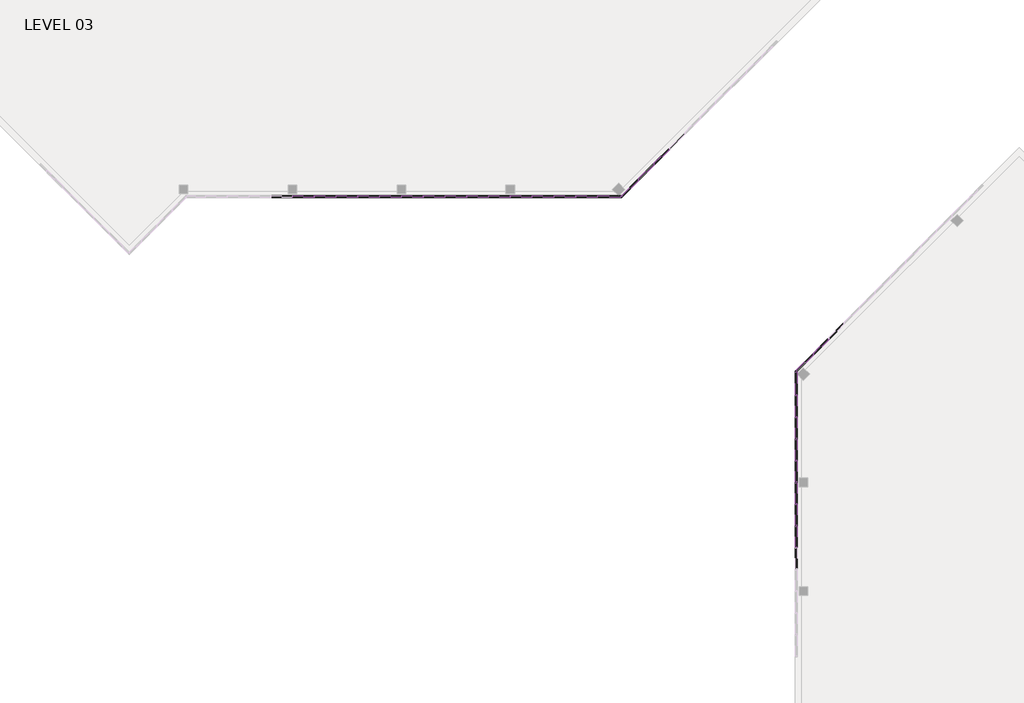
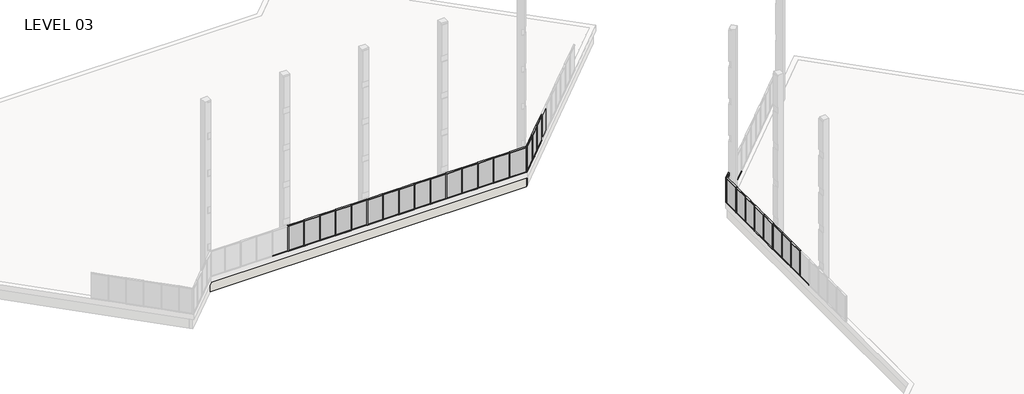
# One storey, part 13 of 18: 90 members, 29 plates, 1 wall.
"""IFC4 building model written with IfcOpenShell, lengths in millimetres."""

from ifc_helpers import new_model, si_unit, origin, place, context, project, spatial, faceted_brep, transform, mapped, element, save
from components import member_5247f267, member_e44af9ab, member_800970d4, member_1bd862b2, member_7ca0f77f, member_c975838b, plate_67294edd, plate_bbcbcabf, plate_db5d6751

model = new_model("IFC4")

# Units and contexts
model_context = context("Model", 3, world=origin())
ifc_project = project(units=[si_unit("LENGTHUNIT", "METRE", prefix="MILLI")], contexts=[model_context])

# Site, building, storey
site = spatial("IfcSite", under=ifc_project)
building = spatial("IfcBuilding", under=site)
storey = spatial("IfcBuildingStorey", under=building, Name="LEVEL 03", Elevation=8280.4)

# Members
placement = place(None, origin())
member_shape = member_5247f267(model_context)
element("IfcMember", 1, ObjectType="Rectangular Mullion : 2\" x 4.5\" rectangular", at=placement, inside=storey, context=model_context, shape_type="MappedRepresentation", body=[
    mapped(member_shape, transform((38182.55, 88955.8023049, 8280.4), x_axis=(0.0, 0.0, -1.0), y_axis=(0.0, 1.0, 0.0), z_axis=(1.0, 0.0, 0.0))),
])
element("IfcMember", 2, ObjectType="Rectangular Mullion : 2\" x 4.5\" rectangular", at=placement, inside=storey, context=model_context, shape_type="MappedRepresentation", body=[
    mapped(member_shape, transform((36658.55, 88955.8023049, 8280.4), x_axis=(0.0, 0.0, -1.0), y_axis=(0.0, 1.0, 0.0), z_axis=(1.0, 0.0, 0.0))),
])
element("IfcMember", 3, ObjectType="Rectangular Mullion : 2\" x 4.5\" rectangular", at=placement, inside=storey, context=model_context, shape_type="MappedRepresentation", body=[
    mapped(member_shape, transform((35134.55, 88955.8023049, 8280.4), x_axis=(0.0, 0.0, -1.0), y_axis=(0.0, 1.0, 0.0), z_axis=(1.0, 0.0, 0.0))),
])
element("IfcMember", 4, ObjectType="Rectangular Mullion : 2\" x 4.5\" rectangular", at=placement, inside=storey, context=model_context, shape_type="MappedRepresentation", body=[
    mapped(member_shape, transform((32086.55, 88955.8023049, 8280.4), x_axis=(0.0, 0.0, -1.0), y_axis=(0.0, 1.0, 0.0), z_axis=(1.0, 0.0, 0.0))),
])
element("IfcMember", 5, ObjectType="Rectangular Mullion : 2\" x 4.5\" rectangular", at=placement, inside=storey, context=model_context, shape_type="MappedRepresentation", body=[
    mapped(member_shape, transform((30562.55, 88955.8023049, 8280.4), x_axis=(0.0, 0.0, -1.0), y_axis=(0.0, 1.0, 0.0), z_axis=(1.0, 0.0, 0.0))),
])
element("IfcMember", 6, ObjectType="Rectangular Mullion : 2\" x 4.5\" rectangular", at=placement, inside=storey, context=model_context, shape_type="MappedRepresentation", body=[
    mapped(member_shape, transform((29038.55, 88955.8023049, 8280.4), x_axis=(0.0, 0.0, -1.0), y_axis=(0.0, 1.0, 0.0), z_axis=(1.0, 0.0, 0.0))),
])
element("IfcMember", 7, ObjectType="Rectangular Mullion : 2\" x 4.5\" rectangular", at=placement, inside=storey, context=model_context, shape_type="MappedRepresentation", body=[
    mapped(member_shape, transform((27514.55, 88955.8023049, 8280.4), x_axis=(0.0, 0.0, -1.0), y_axis=(0.0, 1.0, 0.0), z_axis=(1.0, 0.0, 0.0))),
])
element("IfcMember", 8, ObjectType="Rectangular Mullion : 2\" x 4.5\" rectangular", at=placement, inside=storey, context=model_context, shape_type="MappedRepresentation", body=[
    mapped(member_shape, transform((51331.7667125, 91245.9128818, 8280.4), x_axis=(0.0, 0.0, -1.0), y_axis=(0.7071067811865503, -0.7071067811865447, 0.0), z_axis=(-0.7071067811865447, -0.7071067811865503, 0.0))),
])
element("IfcMember", 9, ObjectType="Rectangular Mullion : 2\" x 4.5\" rectangular", at=placement, inside=storey, context=model_context, shape_type="MappedRepresentation", body=[
    mapped(member_shape, transform((25990.55, 88955.8023049, 8280.4), x_axis=(0.0, 0.0, -1.0), y_axis=(0.0, 1.0, 0.0), z_axis=(1.0, 0.0, 0.0))),
])
element("IfcMember", 10, ObjectType="Rectangular Mullion : 2\" x 4.5\" rectangular", at=placement, inside=storey, context=model_context, shape_type="MappedRepresentation", body=[
    mapped(member_shape, transform((33610.55, 88955.8023049, 8280.4), x_axis=(0.0, 0.0, -1.0), y_axis=(0.0, 1.0, 0.0), z_axis=(1.0, 0.0, 0.0))),
])
element("IfcMember", 11, ObjectType="Rectangular Mullion : 2\" x 4.5\" rectangular", at=placement, inside=storey, context=model_context, shape_type="MappedRepresentation", body=[
    mapped(member_shape, transform((39706.55, 88955.8023049, 8280.4), x_axis=(0.0, 0.0, -1.0), y_axis=(0.0, 1.0, 0.0), z_axis=(1.0, 0.0, 0.0))),
])
element("IfcMember", 12, ObjectType="Rectangular Mullion : 2\" x 4.5\" rectangular", at=placement, inside=storey, context=model_context, shape_type="MappedRepresentation", body=[
    mapped(member_shape, transform((41230.55, 88955.8023049, 8280.4), x_axis=(0.0, 0.0, -1.0), y_axis=(0.0, 1.0, 0.0), z_axis=(1.0, 0.0, 0.0))),
])
element("IfcMember", 13, ObjectType="Rectangular Mullion : 2\" x 4.5\" rectangular", at=placement, inside=storey, context=model_context, shape_type="MappedRepresentation", body=[
    mapped(member_shape, transform((42754.55, 88955.8023049, 8280.4), x_axis=(0.0, 0.0, -1.0), y_axis=(0.0, 1.0, 0.0), z_axis=(1.0, 0.0, 0.0))),
])
element("IfcMember", 14, ObjectType="Rectangular Mullion : 2\" x 4.5\" rectangular", at=placement, inside=storey, context=model_context, shape_type="MappedRepresentation", body=[
    mapped(member_shape, transform((44278.55, 88955.8023049, 8280.4), x_axis=(0.0, 0.0, -1.0), y_axis=(0.0, 1.0, 0.0), z_axis=(1.0, 0.0, 0.0))),
])
element("IfcMember", 15, ObjectType="Rectangular Mullion : 2\" x 4.5\" rectangular", at=placement, inside=storey, context=model_context, shape_type="MappedRepresentation", body=[
    mapped(member_shape, transform((45802.55, 88955.8023049, 8280.4), x_axis=(0.0, 0.0, -1.0), y_axis=(0.0, 1.0, 0.0), z_axis=(1.0, 0.0, 0.0))),
])
element("IfcMember", 16, ObjectType="Rectangular Mullion : 2\" x 4.5\" rectangular", at=placement, inside=storey, context=model_context, shape_type="MappedRepresentation", body=[
    mapped(member_shape, transform((47326.55, 88955.8023049, 8280.4), x_axis=(0.0, 0.0, -1.0), y_axis=(0.0, 1.0, 0.0), z_axis=(1.0, 0.0, 0.0))),
])
element("IfcMember", 17, ObjectType="Rectangular Mullion : 2\" x 4.5\" rectangular", at=placement, inside=storey, context=model_context, shape_type="MappedRepresentation", body=[
    mapped(member_shape, transform((50254.1359779, 90168.2821472, 8280.4), x_axis=(0.0, 0.0, -1.0), y_axis=(0.7071067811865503, -0.7071067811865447, 0.0), z_axis=(-0.7071067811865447, -0.7071067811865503, 0.0))),
])
element("IfcMember", 18, ObjectType="Rectangular Mullion : 2\" x 4.5\" rectangular", at=placement, inside=storey, context=model_context, shape_type="MappedRepresentation", body=[
    mapped(member_shape, transform((38233.35, 88955.8023049, 10871.2), x_axis=(0.0, 0.0, 1.0), y_axis=(0.0, 1.0, 0.0), z_axis=(-1.0, 0.0, 0.0))),
])
element("IfcMember", 19, ObjectType="Rectangular Mullion : 2\" x 4.5\" rectangular", at=placement, inside=storey, context=model_context, shape_type="MappedRepresentation", body=[
    mapped(member_shape, transform((36709.35, 88955.8023049, 10871.2), x_axis=(0.0, 0.0, 1.0), y_axis=(0.0, 1.0, 0.0), z_axis=(-1.0, 0.0, 0.0))),
])
element("IfcMember", 20, ObjectType="Rectangular Mullion : 2\" x 4.5\" rectangular", at=placement, inside=storey, context=model_context, shape_type="MappedRepresentation", body=[
    mapped(member_shape, transform((35185.35, 88955.8023049, 10871.2), x_axis=(0.0, 0.0, 1.0), y_axis=(0.0, 1.0, 0.0), z_axis=(-1.0, 0.0, 0.0))),
])
element("IfcMember", 21, ObjectType="Rectangular Mullion : 2\" x 4.5\" rectangular", at=placement, inside=storey, context=model_context, shape_type="MappedRepresentation", body=[
    mapped(member_shape, transform((32137.35, 88955.8023049, 10871.2), x_axis=(0.0, 0.0, 1.0), y_axis=(0.0, 1.0, 0.0), z_axis=(-1.0, 0.0, 0.0))),
])
element("IfcMember", 22, ObjectType="Rectangular Mullion : 2\" x 4.5\" rectangular", at=placement, inside=storey, context=model_context, shape_type="MappedRepresentation", body=[
    mapped(member_shape, transform((30613.35, 88955.8023049, 10871.2), x_axis=(0.0, 0.0, 1.0), y_axis=(0.0, 1.0, 0.0), z_axis=(-1.0, 0.0, 0.0))),
])
element("IfcMember", 23, ObjectType="Rectangular Mullion : 2\" x 4.5\" rectangular", at=placement, inside=storey, context=model_context, shape_type="MappedRepresentation", body=[
    mapped(member_shape, transform((29089.35, 88955.8023049, 10871.2), x_axis=(0.0, 0.0, 1.0), y_axis=(0.0, 1.0, 0.0), z_axis=(-1.0, 0.0, 0.0))),
])
element("IfcMember", 24, ObjectType="Rectangular Mullion : 2\" x 4.5\" rectangular", at=placement, inside=storey, context=model_context, shape_type="MappedRepresentation", body=[
    mapped(member_shape, transform((27565.35, 88955.8023049, 10871.2), x_axis=(0.0, 0.0, 1.0), y_axis=(0.0, 1.0, 0.0), z_axis=(-1.0, 0.0, 0.0))),
])
element("IfcMember", 25, ObjectType="Rectangular Mullion : 2\" x 4.5\" rectangular", at=placement, inside=storey, context=model_context, shape_type="MappedRepresentation", body=[
    mapped(member_shape, transform((51295.845688, 91209.9918573, 10871.2), x_axis=(0.0, 0.0, 1.0), y_axis=(0.7071067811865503, -0.7071067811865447, 0.0), z_axis=(0.7071067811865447, 0.7071067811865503, 0.0))),
])
element("IfcMember", 26, ObjectType="Rectangular Mullion : 2\" x 4.5\" rectangular", at=placement, inside=storey, context=model_context, shape_type="MappedRepresentation", body=[
    mapped(member_shape, transform((52373.4764225, 92287.6225918, 10871.2), x_axis=(0.0, 0.0, 1.0), y_axis=(0.7071067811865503, -0.7071067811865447, 0.0), z_axis=(0.7071067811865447, 0.7071067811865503, 0.0))),
])
element("IfcMember", 27, ObjectType="Rectangular Mullion : 2\" x 4.5\" rectangular", at=placement, inside=storey, context=model_context, shape_type="MappedRepresentation", body=[
    mapped(member_shape, transform((26041.35, 88955.8023049, 10871.2), x_axis=(0.0, 0.0, 1.0), y_axis=(0.0, 1.0, 0.0), z_axis=(-1.0, 0.0, 0.0))),
])
element("IfcMember", 28, ObjectType="Rectangular Mullion : 2\" x 4.5\" rectangular", at=placement, inside=storey, context=model_context, shape_type="MappedRepresentation", body=[
    mapped(member_shape, transform((33661.35, 88955.8023049, 10871.2), x_axis=(0.0, 0.0, 1.0), y_axis=(0.0, 1.0, 0.0), z_axis=(-1.0, 0.0, 0.0))),
])
element("IfcMember", 29, ObjectType="Rectangular Mullion : 2\" x 4.5\" rectangular", at=placement, inside=storey, context=model_context, shape_type="MappedRepresentation", body=[
    mapped(member_shape, transform((39757.35, 88955.8023049, 10871.2), x_axis=(0.0, 0.0, 1.0), y_axis=(0.0, 1.0, 0.0), z_axis=(-1.0, 0.0, 0.0))),
])
element("IfcMember", 30, ObjectType="Rectangular Mullion : 2\" x 4.5\" rectangular", at=placement, inside=storey, context=model_context, shape_type="MappedRepresentation", body=[
    mapped(member_shape, transform((41281.35, 88955.8023049, 10871.2), x_axis=(0.0, 0.0, 1.0), y_axis=(0.0, 1.0, 0.0), z_axis=(-1.0, 0.0, 0.0))),
])
element("IfcMember", 31, ObjectType="Rectangular Mullion : 2\" x 4.5\" rectangular", at=placement, inside=storey, context=model_context, shape_type="MappedRepresentation", body=[
    mapped(member_shape, transform((42805.35, 88955.8023049, 10871.2), x_axis=(0.0, 0.0, 1.0), y_axis=(0.0, 1.0, 0.0), z_axis=(-1.0, 0.0, 0.0))),
])
element("IfcMember", 32, ObjectType="Rectangular Mullion : 2\" x 4.5\" rectangular", at=placement, inside=storey, context=model_context, shape_type="MappedRepresentation", body=[
    mapped(member_shape, transform((44329.35, 88955.8023049, 10871.2), x_axis=(0.0, 0.0, 1.0), y_axis=(0.0, 1.0, 0.0), z_axis=(-1.0, 0.0, 0.0))),
])
element("IfcMember", 33, ObjectType="Rectangular Mullion : 2\" x 4.5\" rectangular", at=placement, inside=storey, context=model_context, shape_type="MappedRepresentation", body=[
    mapped(member_shape, transform((45853.35, 88955.8023049, 10871.2), x_axis=(0.0, 0.0, 1.0), y_axis=(0.0, 1.0, 0.0), z_axis=(-1.0, 0.0, 0.0))),
])
member_2_shape = member_e44af9ab(model_context)
element("IfcMember", 34, ObjectType="Rectangular Mullion : 2\" x 4.5\" rectangular", at=placement, inside=storey, context=model_context, shape_type="MappedRepresentation", body=[
    mapped(member_2_shape, transform((38207.95, 88955.8023049, 8280.4), x_axis=(-1.0, 0.0, 0.0), y_axis=(0.0, 1.0, 0.0), z_axis=(0.0, 0.0, -1.0))),
])
element("IfcMember", 35, ObjectType="Rectangular Mullion : 2\" x 4.5\" rectangular", at=placement, inside=storey, context=model_context, shape_type="MappedRepresentation", body=[
    mapped(member_2_shape, transform((36683.95, 88955.8023049, 8280.4), x_axis=(-1.0, 0.0, 0.0), y_axis=(0.0, 1.0, 0.0), z_axis=(0.0, 0.0, -1.0))),
])
element("IfcMember", 36, ObjectType="Rectangular Mullion : 2\" x 4.5\" rectangular", at=placement, inside=storey, context=model_context, shape_type="MappedRepresentation", body=[
    mapped(member_2_shape, transform((35159.95, 88955.8023049, 8280.4), x_axis=(-1.0, 0.0, 0.0), y_axis=(0.0, 1.0, 0.0), z_axis=(0.0, 0.0, -1.0))),
])
element("IfcMember", 37, ObjectType="Rectangular Mullion : 2\" x 4.5\" rectangular", at=placement, inside=storey, context=model_context, shape_type="MappedRepresentation", body=[
    mapped(member_2_shape, transform((32111.95, 88955.8023049, 8280.4), x_axis=(-1.0, 0.0, 0.0), y_axis=(0.0, 1.0, 0.0), z_axis=(0.0, 0.0, -1.0))),
])
element("IfcMember", 38, ObjectType="Rectangular Mullion : 2\" x 4.5\" rectangular", at=placement, inside=storey, context=model_context, shape_type="MappedRepresentation", body=[
    mapped(member_2_shape, transform((30587.95, 88955.8023049, 8280.4), x_axis=(-1.0, 0.0, 0.0), y_axis=(0.0, 1.0, 0.0), z_axis=(0.0, 0.0, -1.0))),
])
element("IfcMember", 39, ObjectType="Rectangular Mullion : 2\" x 4.5\" rectangular", at=placement, inside=storey, context=model_context, shape_type="MappedRepresentation", body=[
    mapped(member_2_shape, transform((29063.95, 88955.8023049, 8280.4), x_axis=(-1.0, 0.0, 0.0), y_axis=(0.0, 1.0, 0.0), z_axis=(0.0, 0.0, -1.0))),
])
element("IfcMember", 40, ObjectType="Rectangular Mullion : 2\" x 4.5\" rectangular", at=placement, inside=storey, context=model_context, shape_type="MappedRepresentation", body=[
    mapped(member_2_shape, transform((27539.95, 88955.8023049, 8280.4), x_axis=(-1.0, 0.0, 0.0), y_axis=(0.0, 1.0, 0.0), z_axis=(0.0, 0.0, -1.0))),
])
element("IfcMember", 41, ObjectType="Rectangular Mullion : 2\" x 4.5\" rectangular", at=placement, inside=storey, context=model_context, shape_type="MappedRepresentation", body=[
    mapped(member_2_shape, transform((51313.8062002, 91227.9523695, 8280.4), x_axis=(0.7071067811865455, 0.7071067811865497, 0.0), y_axis=(0.7071067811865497, -0.7071067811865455, 0.0), z_axis=(0.0, 0.0, -1.0))),
])
element("IfcMember", 42, ObjectType="Rectangular Mullion : 2\" x 4.5\" rectangular", at=placement, inside=storey, context=model_context, shape_type="MappedRepresentation", body=[
    mapped(member_2_shape, transform((26015.95, 88955.8023049, 8280.4), x_axis=(-1.0, 0.0, 0.0), y_axis=(0.0, 1.0, 0.0), z_axis=(0.0, 0.0, -1.0))),
])
element("IfcMember", 43, ObjectType="Rectangular Mullion : 2\" x 4.5\" rectangular", at=placement, inside=storey, context=model_context, shape_type="MappedRepresentation", body=[
    mapped(member_2_shape, transform((33635.95, 88955.8023049, 8280.4), x_axis=(-1.0, 0.0, 0.0), y_axis=(0.0, 1.0, 0.0), z_axis=(0.0, 0.0, -1.0))),
])
element("IfcMember", 44, ObjectType="Rectangular Mullion : 2\" x 4.5\" rectangular", at=placement, inside=storey, context=model_context, shape_type="MappedRepresentation", body=[
    mapped(member_2_shape, transform((39731.95, 88955.8023049, 8280.4), x_axis=(-1.0, 0.0, 0.0), y_axis=(0.0, 1.0, 0.0), z_axis=(0.0, 0.0, -1.0))),
])
element("IfcMember", 45, ObjectType="Rectangular Mullion : 2\" x 4.5\" rectangular", at=placement, inside=storey, context=model_context, shape_type="MappedRepresentation", body=[
    mapped(member_2_shape, transform((41255.95, 88955.8023049, 8280.4), x_axis=(-1.0, 0.0, 0.0), y_axis=(0.0, 1.0, 0.0), z_axis=(0.0, 0.0, -1.0))),
])
element("IfcMember", 46, ObjectType="Rectangular Mullion : 2\" x 4.5\" rectangular", at=placement, inside=storey, context=model_context, shape_type="MappedRepresentation", body=[
    mapped(member_2_shape, transform((42779.95, 88955.8023049, 8280.4), x_axis=(-1.0, 0.0, 0.0), y_axis=(0.0, 1.0, 0.0), z_axis=(0.0, 0.0, -1.0))),
])
element("IfcMember", 47, ObjectType="Rectangular Mullion : 2\" x 4.5\" rectangular", at=placement, inside=storey, context=model_context, shape_type="MappedRepresentation", body=[
    mapped(member_2_shape, transform((44303.95, 88955.8023049, 8280.4), x_axis=(-1.0, 0.0, 0.0), y_axis=(0.0, 1.0, 0.0), z_axis=(0.0, 0.0, -1.0))),
])
element("IfcMember", 48, ObjectType="Rectangular Mullion : 2\" x 4.5\" rectangular", at=placement, inside=storey, context=model_context, shape_type="MappedRepresentation", body=[
    mapped(member_2_shape, transform((45827.95, 88955.8023049, 8280.4), x_axis=(-1.0, 0.0, 0.0), y_axis=(0.0, 1.0, 0.0), z_axis=(0.0, 0.0, -1.0))),
])
element("IfcMember", 49, ObjectType="Rectangular Mullion : 2\" x 4.5\" rectangular", at=placement, inside=storey, context=model_context, shape_type="MappedRepresentation", body=[
    mapped(member_2_shape, transform((47351.95, 88955.8023049, 8280.4), x_axis=(-1.0, 0.0, 0.0), y_axis=(0.0, 1.0, 0.0), z_axis=(0.0, 0.0, -1.0))),
])
element("IfcMember", 50, ObjectType="Rectangular Mullion : 2\" x 4.5\" rectangular", at=placement, inside=storey, context=model_context, shape_type="MappedRepresentation", body=[
    mapped(member_2_shape, transform((50236.1754657, 90150.321635, 8280.4), x_axis=(0.7071067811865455, 0.7071067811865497, 0.0), y_axis=(0.7071067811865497, -0.7071067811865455, 0.0), z_axis=(0.0, 0.0, -1.0))),
])
member_3_shape = member_800970d4(model_context)
element("IfcMember", 51, ObjectType="Rectangular Mullion : 2\" x 4.5\" rectangular", at=placement, inside=storey, context=model_context, shape_type="MappedRepresentation", body=[
    mapped(member_3_shape, transform((49041.6561356, 88955.8023049, 10871.2), x_axis=(1.0, 0.0, 0.0), y_axis=(0.0, 1.0, 0.0), z_axis=(0.0, 0.0, 1.0))),
])
element("IfcMember", 52, ObjectType="Rectangular Mullion : 2\" x 4.5\" rectangular", at=placement, inside=storey, context=model_context, shape_type="MappedRepresentation", body=[
    mapped(member_3_shape, transform((49041.6561356, 88955.8023049, 10871.2), x_axis=(-0.7071067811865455, -0.7071067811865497, 0.0), y_axis=(0.7071067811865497, -0.7071067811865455, 0.0), z_axis=(0.0, 0.0, 1.0))),
])
member_4_shape = member_1bd862b2(model_context)
element("IfcMember", 53, ObjectType="Rectangular Mullion : 2\" x 4.5\" rectangular", at=placement, inside=storey, context=model_context, shape_type="MappedRepresentation", body=[
    mapped(member_4_shape, transform((47377.35, 88955.8023049, 10871.2), x_axis=(0.0, 0.0, 1.0), y_axis=(0.0, 1.0, 0.0), z_axis=(-1.0, 0.0, 0.0))),
])
element("IfcMember", 54, ObjectType="Rectangular Mullion : 2\" x 4.5\" rectangular", at=placement, inside=storey, context=model_context, shape_type="MappedRepresentation", body=[
    mapped(member_4_shape, transform((48990.8561356, 88955.8023049, 8280.4), x_axis=(0.0, 0.0, -1.0), y_axis=(0.0, 1.0, 0.0), z_axis=(1.0, 0.0, 0.0))),
])
member_5_shape = member_7ca0f77f(model_context)
element("IfcMember", 55, ObjectType="Rectangular Mullion : 2\" x 4.5\" rectangular", at=placement, inside=storey, context=model_context, shape_type="MappedRepresentation", body=[
    mapped(member_5_shape, transform((50218.2149534, 90132.3611227, 10871.2), x_axis=(0.0, 0.0, 1.0), y_axis=(0.7071067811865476, -0.7071067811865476, 0.0), z_axis=(0.7071067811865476, 0.7071067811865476, 0.0))),
])
element("IfcMember", 56, ObjectType="Rectangular Mullion : 2\" x 4.5\" rectangular", at=placement, inside=storey, context=model_context, shape_type="MappedRepresentation", body=[
    mapped(member_5_shape, transform((49077.5771601, 88991.7233294, 8280.4), x_axis=(0.0, 0.0, -1.0), y_axis=(0.7071067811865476, -0.7071067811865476, 0.0), z_axis=(-0.7071067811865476, -0.7071067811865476, 0.0))),
])
element("IfcMember", 57, ObjectType="Rectangular Mullion : 2\" x 4.5\" rectangular", at=placement, inside=storey, context=model_context, shape_type="MappedRepresentation", body=[
    mapped(member_shape, transform((61263.7847164, 65925.3675885, 10871.2), x_axis=(0.0, 0.0, 1.0), y_axis=(-1.0, 0.0, 0.0), z_axis=(0.0, -1.0, 0.0))),
])
element("IfcMember", 58, ObjectType="Rectangular Mullion : 2\" x 4.5\" rectangular", at=placement, inside=storey, context=model_context, shape_type="MappedRepresentation", body=[
    mapped(member_shape, transform((61263.7847164, 64401.3675885, 10871.2), x_axis=(0.0, 0.0, 1.0), y_axis=(-1.0, 0.0, 0.0), z_axis=(0.0, -1.0, 0.0))),
])
element("IfcMember", 59, ObjectType="Rectangular Mullion : 2\" x 4.5\" rectangular", at=placement, inside=storey, context=model_context, shape_type="MappedRepresentation", body=[
    mapped(member_shape, transform((63517.9742688, 78987.8632765, 10871.2), x_axis=(0.0, 0.0, 1.0), y_axis=(0.7071067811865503, -0.7071067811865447, 0.0), z_axis=(0.7071067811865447, 0.7071067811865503, 0.0))),
])
element("IfcMember", 60, ObjectType="Rectangular Mullion : 2\" x 4.5\" rectangular", at=placement, inside=storey, context=model_context, shape_type="MappedRepresentation", body=[
    mapped(member_shape, transform((61263.7847164, 67449.3675885, 10871.2), x_axis=(0.0, 0.0, 1.0), y_axis=(-1.0, 0.0, 0.0), z_axis=(0.0, -1.0, 0.0))),
])
element("IfcMember", 61, ObjectType="Rectangular Mullion : 2\" x 4.5\" rectangular", at=placement, inside=storey, context=model_context, shape_type="MappedRepresentation", body=[
    mapped(member_shape, transform((61263.7847164, 68973.3675885, 10871.2), x_axis=(0.0, 0.0, 1.0), y_axis=(-1.0, 0.0, 0.0), z_axis=(0.0, -1.0, 0.0))),
])
element("IfcMember", 62, ObjectType="Rectangular Mullion : 2\" x 4.5\" rectangular", at=placement, inside=storey, context=model_context, shape_type="MappedRepresentation", body=[
    mapped(member_shape, transform((61263.7847164, 70497.3675885, 10871.2), x_axis=(0.0, 0.0, 1.0), y_axis=(-1.0, 0.0, 0.0), z_axis=(0.0, -1.0, 0.0))),
])
element("IfcMember", 63, ObjectType="Rectangular Mullion : 2\" x 4.5\" rectangular", at=placement, inside=storey, context=model_context, shape_type="MappedRepresentation", body=[
    mapped(member_shape, transform((61263.7847164, 72021.3675885, 10871.2), x_axis=(0.0, 0.0, 1.0), y_axis=(-1.0, 0.0, 0.0), z_axis=(0.0, -1.0, 0.0))),
])
element("IfcMember", 64, ObjectType="Rectangular Mullion : 2\" x 4.5\" rectangular", at=placement, inside=storey, context=model_context, shape_type="MappedRepresentation", body=[
    mapped(member_shape, transform((61263.7847164, 73545.3675885, 10871.2), x_axis=(0.0, 0.0, 1.0), y_axis=(-1.0, 0.0, 0.0), z_axis=(0.0, -1.0, 0.0))),
])
element("IfcMember", 65, ObjectType="Rectangular Mullion : 2\" x 4.5\" rectangular", at=placement, inside=storey, context=model_context, shape_type="MappedRepresentation", body=[
    mapped(member_shape, transform((61263.7847164, 65874.5675885, 8280.4), x_axis=(0.0, 0.0, -1.0), y_axis=(-1.0, 0.0, 0.0), z_axis=(0.0, 1.0, 0.0))),
])
element("IfcMember", 66, ObjectType="Rectangular Mullion : 2\" x 4.5\" rectangular", at=placement, inside=storey, context=model_context, shape_type="MappedRepresentation", body=[
    mapped(member_shape, transform((61263.7847164, 64350.5675885, 8280.4), x_axis=(0.0, 0.0, -1.0), y_axis=(-1.0, 0.0, 0.0), z_axis=(0.0, 1.0, 0.0))),
])
element("IfcMember", 67, ObjectType="Rectangular Mullion : 2\" x 4.5\" rectangular", at=placement, inside=storey, context=model_context, shape_type="MappedRepresentation", body=[
    mapped(member_shape, transform((63553.8952932, 79023.784301, 8280.4), x_axis=(0.0, 0.0, -1.0), y_axis=(0.7071067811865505, -0.7071067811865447, 0.0), z_axis=(-0.7071067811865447, -0.7071067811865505, 0.0))),
])
element("IfcMember", 68, ObjectType="Rectangular Mullion : 2\" x 4.5\" rectangular", at=placement, inside=storey, context=model_context, shape_type="MappedRepresentation", body=[
    mapped(member_shape, transform((61263.7847164, 67398.5675885, 8280.4), x_axis=(0.0, 0.0, -1.0), y_axis=(-1.0, 0.0, 0.0), z_axis=(0.0, 1.0, 0.0))),
])
element("IfcMember", 69, ObjectType="Rectangular Mullion : 2\" x 4.5\" rectangular", at=placement, inside=storey, context=model_context, shape_type="MappedRepresentation", body=[
    mapped(member_shape, transform((61263.7847164, 68922.5675885, 8280.4), x_axis=(0.0, 0.0, -1.0), y_axis=(-1.0, 0.0, 0.0), z_axis=(0.0, 1.0, 0.0))),
])
element("IfcMember", 70, ObjectType="Rectangular Mullion : 2\" x 4.5\" rectangular", at=placement, inside=storey, context=model_context, shape_type="MappedRepresentation", body=[
    mapped(member_shape, transform((61263.7847164, 70446.5675885, 8280.4), x_axis=(0.0, 0.0, -1.0), y_axis=(-1.0, 0.0, 0.0), z_axis=(0.0, 1.0, 0.0))),
])
element("IfcMember", 71, ObjectType="Rectangular Mullion : 2\" x 4.5\" rectangular", at=placement, inside=storey, context=model_context, shape_type="MappedRepresentation", body=[
    mapped(member_shape, transform((61263.7847164, 71970.5675885, 8280.4), x_axis=(0.0, 0.0, -1.0), y_axis=(-1.0, 0.0, 0.0), z_axis=(0.0, 1.0, 0.0))),
])
element("IfcMember", 72, ObjectType="Rectangular Mullion : 2\" x 4.5\" rectangular", at=placement, inside=storey, context=model_context, shape_type="MappedRepresentation", body=[
    mapped(member_shape, transform((61263.7847164, 73494.5675885, 8280.4), x_axis=(0.0, 0.0, -1.0), y_axis=(-1.0, 0.0, 0.0), z_axis=(0.0, 1.0, 0.0))),
])
element("IfcMember", 73, ObjectType="Rectangular Mullion : 2\" x 4.5\" rectangular", at=placement, inside=storey, context=model_context, shape_type="MappedRepresentation", body=[
    mapped(member_shape, transform((61263.7847164, 75018.5675885, 8280.4), x_axis=(0.0, 0.0, -1.0), y_axis=(-1.0, 0.0, 0.0), z_axis=(0.0, 1.0, 0.0))),
])
element("IfcMember", 74, ObjectType="Rectangular Mullion : 2\" x 4.5\" rectangular", at=placement, inside=storey, context=model_context, shape_type="MappedRepresentation", body=[
    mapped(member_shape, transform((62476.2645587, 77946.1535665, 8280.4), x_axis=(0.0, 0.0, -1.0), y_axis=(0.7071067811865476, -0.7071067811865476, 0.0), z_axis=(-0.7071067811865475, -0.7071067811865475, 0.0))),
])
element("IfcMember", 75, ObjectType="Rectangular Mullion : 2\" x 4.5\" rectangular", at=placement, inside=storey, context=model_context, shape_type="MappedRepresentation", body=[
    mapped(member_2_shape, transform((61263.7847164, 65899.9675885, 8280.4), x_axis=(0.0, -1.0, 0.0), y_axis=(-1.0, 0.0, 0.0), z_axis=(0.0, 0.0, -1.0))),
])
element("IfcMember", 76, ObjectType="Rectangular Mullion : 2\" x 4.5\" rectangular", at=placement, inside=storey, context=model_context, shape_type="MappedRepresentation", body=[
    mapped(member_2_shape, transform((61263.7847164, 64375.9675885, 8280.4), x_axis=(0.0, -1.0, 0.0), y_axis=(-1.0, 0.0, 0.0), z_axis=(0.0, 0.0, -1.0))),
])
element("IfcMember", 77, ObjectType="Rectangular Mullion : 2\" x 4.5\" rectangular", at=placement, inside=storey, context=model_context, shape_type="MappedRepresentation", body=[
    mapped(member_2_shape, transform((63535.934781, 79005.8237887, 8280.4), x_axis=(0.7071067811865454, 0.7071067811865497, 0.0), y_axis=(0.7071067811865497, -0.7071067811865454, 0.0), z_axis=(0.0, 0.0, -1.0))),
])
element("IfcMember", 78, ObjectType="Rectangular Mullion : 2\" x 4.5\" rectangular", at=placement, inside=storey, context=model_context, shape_type="MappedRepresentation", body=[
    mapped(member_2_shape, transform((61263.7847164, 67423.9675885, 8280.4), x_axis=(0.0, -1.0, 0.0), y_axis=(-1.0, 0.0, 0.0), z_axis=(0.0, 0.0, -1.0))),
])
element("IfcMember", 79, ObjectType="Rectangular Mullion : 2\" x 4.5\" rectangular", at=placement, inside=storey, context=model_context, shape_type="MappedRepresentation", body=[
    mapped(member_2_shape, transform((61263.7847164, 68947.9675885, 8280.4), x_axis=(0.0, -1.0, 0.0), y_axis=(-1.0, 0.0, 0.0), z_axis=(0.0, 0.0, -1.0))),
])
element("IfcMember", 80, ObjectType="Rectangular Mullion : 2\" x 4.5\" rectangular", at=placement, inside=storey, context=model_context, shape_type="MappedRepresentation", body=[
    mapped(member_2_shape, transform((61263.7847164, 70471.9675885, 8280.4), x_axis=(0.0, -1.0, 0.0), y_axis=(-1.0, 0.0, 0.0), z_axis=(0.0, 0.0, -1.0))),
])
element("IfcMember", 81, ObjectType="Rectangular Mullion : 2\" x 4.5\" rectangular", at=placement, inside=storey, context=model_context, shape_type="MappedRepresentation", body=[
    mapped(member_2_shape, transform((61263.7847164, 71995.9675885, 8280.4), x_axis=(0.0, -1.0, 0.0), y_axis=(-1.0, 0.0, 0.0), z_axis=(0.0, 0.0, -1.0))),
])
element("IfcMember", 82, ObjectType="Rectangular Mullion : 2\" x 4.5\" rectangular", at=placement, inside=storey, context=model_context, shape_type="MappedRepresentation", body=[
    mapped(member_2_shape, transform((61263.7847164, 73519.9675885, 8280.4), x_axis=(0.0, -1.0, 0.0), y_axis=(-1.0, 0.0, 0.0), z_axis=(0.0, 0.0, -1.0))),
])
element("IfcMember", 83, ObjectType="Rectangular Mullion : 2\" x 4.5\" rectangular", at=placement, inside=storey, context=model_context, shape_type="MappedRepresentation", body=[
    mapped(member_2_shape, transform((61263.7847164, 75043.9675885, 8280.4), x_axis=(0.0, -1.0, 0.0), y_axis=(-1.0, 0.0, 0.0), z_axis=(0.0, 0.0, -1.0))),
])
element("IfcMember", 84, ObjectType="Rectangular Mullion : 2\" x 4.5\" rectangular", at=placement, inside=storey, context=model_context, shape_type="MappedRepresentation", body=[
    mapped(member_2_shape, transform((62458.3040465, 77928.1930542, 8280.4), x_axis=(0.7071067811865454, 0.7071067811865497, 0.0), y_axis=(0.7071067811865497, -0.7071067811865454, 0.0), z_axis=(0.0, 0.0, -1.0))),
])
element("IfcMember", 85, ObjectType="Rectangular Mullion : 2\" x 4.5\" rectangular", at=placement, inside=storey, context=model_context, shape_type="MappedRepresentation", body=[
    mapped(member_3_shape, transform((61263.7847164, 76733.6737241, 10871.2), x_axis=(0.0, 1.0, 0.0), y_axis=(-1.0, 0.0, 0.0), z_axis=(0.0, 0.0, 1.0))),
])
element("IfcMember", 86, ObjectType="Rectangular Mullion : 2\" x 4.5\" rectangular", at=placement, inside=storey, context=model_context, shape_type="MappedRepresentation", body=[
    mapped(member_3_shape, transform((61263.7847164, 76733.6737241, 10871.2), x_axis=(-0.7071067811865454, -0.7071067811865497, 0.0), y_axis=(0.7071067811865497, -0.7071067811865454, 0.0), z_axis=(0.0, 0.0, 1.0))),
])
element("IfcMember", 87, ObjectType="Rectangular Mullion : 2\" x 4.5\" rectangular", at=placement, inside=storey, context=model_context, shape_type="MappedRepresentation", body=[
    mapped(member_4_shape, transform((61263.7847164, 76682.8737241, 8280.4), x_axis=(0.0, 0.0, -1.0), y_axis=(-1.0, 0.0, 0.0), z_axis=(0.0, 1.0, 0.0))),
])
element("IfcMember", 88, ObjectType="Rectangular Mullion : 2\" x 4.5\" rectangular", at=placement, inside=storey, context=model_context, shape_type="MappedRepresentation", body=[
    mapped(member_4_shape, transform((61263.7847164, 75069.3675885, 10871.2), x_axis=(0.0, 0.0, 1.0), y_axis=(-1.0, 0.0, 0.0), z_axis=(0.0, -1.0, 0.0))),
])
member_6_shape = member_c975838b(model_context)
element("IfcMember", 89, ObjectType="Rectangular Mullion : 2\" x 4.5\" rectangular", at=placement, inside=storey, context=model_context, shape_type="MappedRepresentation", body=[
    mapped(member_6_shape, transform((61299.7057409, 76769.5947486, 8280.4), x_axis=(0.0, 0.0, -1.0), y_axis=(0.7071067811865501, -0.7071067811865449, 0.0), z_axis=(-0.7071067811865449, -0.7071067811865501, 0.0))),
])
element("IfcMember", 90, ObjectType="Rectangular Mullion : 2\" x 4.5\" rectangular", at=placement, inside=storey, context=model_context, shape_type="MappedRepresentation", body=[
    mapped(member_6_shape, transform((62440.3435342, 77910.232542, 10871.2), x_axis=(0.0, 0.0, 1.0), y_axis=(0.7071067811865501, -0.7071067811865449, 0.0), z_axis=(0.7071067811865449, 0.7071067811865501, 0.0))),
])

# Plates
plate_shape = plate_67294edd(model_context)
element("IfcPlate", 91, ObjectType="System Panel : 1/4\" Glass", at=placement, inside=storey, context=model_context, shape_type="MappedRepresentation", body=[
    mapped(plate_shape, transform((37445.95, 88955.8023049, 8331.2), x_axis=(-1.0, 0.0, 0.0), y_axis=(0.0, -1.0, 0.0), z_axis=(0.0, 0.0, 1.0))),
])
element("IfcPlate", 92, ObjectType="System Panel : 1/4\" Glass", at=placement, inside=storey, context=model_context, shape_type="MappedRepresentation", body=[
    mapped(plate_shape, transform((35921.95, 88955.8023049, 8331.2), x_axis=(-1.0, 0.0, 0.0), y_axis=(0.0, -1.0, 0.0), z_axis=(0.0, 0.0, 1.0))),
])
element("IfcPlate", 93, ObjectType="System Panel : 1/4\" Glass", at=placement, inside=storey, context=model_context, shape_type="MappedRepresentation", body=[
    mapped(plate_shape, transform((34397.95, 88955.8023049, 8331.2), x_axis=(-1.0, 0.0, 0.0), y_axis=(0.0, -1.0, 0.0), z_axis=(0.0, 0.0, 1.0))),
])
element("IfcPlate", 94, ObjectType="System Panel : 1/4\" Glass", at=placement, inside=storey, context=model_context, shape_type="MappedRepresentation", body=[
    mapped(plate_shape, transform((31349.95, 88955.8023049, 8331.2), x_axis=(-1.0, 0.0, 0.0), y_axis=(0.0, -1.0, 0.0), z_axis=(0.0, 0.0, 1.0))),
])
element("IfcPlate", 95, ObjectType="System Panel : 1/4\" Glass", at=placement, inside=storey, context=model_context, shape_type="MappedRepresentation", body=[
    mapped(plate_shape, transform((29825.95, 88955.8023049, 8331.2), x_axis=(-1.0, 0.0, 0.0), y_axis=(0.0, -1.0, 0.0), z_axis=(0.0, 0.0, 1.0))),
])
element("IfcPlate", 96, ObjectType="System Panel : 1/4\" Glass", at=placement, inside=storey, context=model_context, shape_type="MappedRepresentation", body=[
    mapped(plate_shape, transform((28301.95, 88955.8023049, 8331.2), x_axis=(-1.0, 0.0, 0.0), y_axis=(0.0, -1.0, 0.0), z_axis=(0.0, 0.0, 1.0))),
])
element("IfcPlate", 97, ObjectType="System Panel : 1/4\" Glass", at=placement, inside=storey, context=model_context, shape_type="MappedRepresentation", body=[
    mapped(plate_shape, transform((26777.95, 88955.8023049, 8331.2), x_axis=(-1.0, 0.0, 0.0), y_axis=(0.0, -1.0, 0.0), z_axis=(0.0, 0.0, 1.0))),
])
element("IfcPlate", 98, ObjectType="System Panel : 1/4\" Glass", at=placement, inside=storey, context=model_context, shape_type="MappedRepresentation", body=[
    mapped(plate_shape, transform((51852.6215675, 91766.7677368, 8331.2), x_axis=(0.7071067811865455, 0.7071067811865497, 0.0), y_axis=(-0.7071067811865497, 0.7071067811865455, 0.0), z_axis=(0.0, 0.0, 1.0))),
])
element("IfcPlate", 99, ObjectType="System Panel : 1/4\" Glass", at=placement, inside=storey, context=model_context, shape_type="MappedRepresentation", body=[
    mapped(plate_shape, transform((52930.252302, 92844.3984713, 8331.2), x_axis=(0.7071067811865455, 0.7071067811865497, 0.0), y_axis=(-0.7071067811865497, 0.7071067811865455, 0.0), z_axis=(0.0, 0.0, 1.0))),
])
element("IfcPlate", 100, ObjectType="System Panel : 1/4\" Glass", at=placement, inside=storey, context=model_context, shape_type="MappedRepresentation", body=[
    mapped(plate_shape, transform((32873.95, 88955.8023049, 8331.2), x_axis=(-1.0, 0.0, 0.0), y_axis=(0.0, -1.0, 0.0), z_axis=(0.0, 0.0, 1.0))),
])
element("IfcPlate", 101, ObjectType="System Panel : 1/4\" Glass", at=placement, inside=storey, context=model_context, shape_type="MappedRepresentation", body=[
    mapped(plate_shape, transform((38969.95, 88955.8023049, 8331.2), x_axis=(-1.0, 0.0, 0.0), y_axis=(0.0, -1.0, 0.0), z_axis=(0.0, 0.0, 1.0))),
])
element("IfcPlate", 102, ObjectType="System Panel : 1/4\" Glass", at=placement, inside=storey, context=model_context, shape_type="MappedRepresentation", body=[
    mapped(plate_shape, transform((40493.95, 88955.8023049, 8331.2), x_axis=(-1.0, 0.0, 0.0), y_axis=(0.0, -1.0, 0.0), z_axis=(0.0, 0.0, 1.0))),
])
element("IfcPlate", 103, ObjectType="System Panel : 1/4\" Glass", at=placement, inside=storey, context=model_context, shape_type="MappedRepresentation", body=[
    mapped(plate_shape, transform((42017.95, 88955.8023049, 8331.2), x_axis=(-1.0, 0.0, 0.0), y_axis=(0.0, -1.0, 0.0), z_axis=(0.0, 0.0, 1.0))),
])
element("IfcPlate", 104, ObjectType="System Panel : 1/4\" Glass", at=placement, inside=storey, context=model_context, shape_type="MappedRepresentation", body=[
    mapped(plate_shape, transform((43541.95, 88955.8023049, 8331.2), x_axis=(-1.0, 0.0, 0.0), y_axis=(0.0, -1.0, 0.0), z_axis=(0.0, 0.0, 1.0))),
])
element("IfcPlate", 105, ObjectType="System Panel : 1/4\" Glass", at=placement, inside=storey, context=model_context, shape_type="MappedRepresentation", body=[
    mapped(plate_shape, transform((45065.95, 88955.8023049, 8331.2), x_axis=(-1.0, 0.0, 0.0), y_axis=(0.0, -1.0, 0.0), z_axis=(0.0, 0.0, 1.0))),
])
element("IfcPlate", 106, ObjectType="System Panel : 1/4\" Glass", at=placement, inside=storey, context=model_context, shape_type="MappedRepresentation", body=[
    mapped(plate_shape, transform((46589.95, 88955.8023049, 8331.2), x_axis=(-1.0, 0.0, 0.0), y_axis=(0.0, -1.0, 0.0), z_axis=(0.0, 0.0, 1.0))),
])
element("IfcPlate", 107, ObjectType="System Panel : 1/4\" Glass", at=placement, inside=storey, context=model_context, shape_type="MappedRepresentation", body=[
    mapped(plate_shape, transform((50774.990833, 90689.1370023, 8331.2), x_axis=(0.7071067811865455, 0.7071067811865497, 0.0), y_axis=(-0.7071067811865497, 0.7071067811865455, 0.0), z_axis=(0.0, 0.0, 1.0))),
])
plate_2_shape = plate_bbcbcabf(model_context)
element("IfcPlate", 108, ObjectType="System Panel : 1/4\" Glass", at=placement, inside=storey, context=model_context, shape_type="MappedRepresentation", body=[
    mapped(plate_2_shape, transform((48184.1030678, 88955.8023049, 8331.2), x_axis=(-1.0, 0.0, 0.0), y_axis=(0.0, -1.0, 0.0), z_axis=(0.0, 0.0, 1.0))),
])
plate_3_shape = plate_db5d6751(model_context)
element("IfcPlate", 109, ObjectType="System Panel : 1/4\" Glass", at=placement, inside=storey, context=model_context, shape_type="MappedRepresentation", body=[
    mapped(plate_3_shape, transform((49647.8960568, 89562.0422261, 8331.2), x_axis=(0.7071067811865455, 0.7071067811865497, 0.0), y_axis=(-0.7071067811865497, 0.7071067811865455, 0.0), z_axis=(0.0, 0.0, 1.0))),
])
element("IfcPlate", 110, ObjectType="System Panel : 1/4\" Glass", at=placement, inside=storey, context=model_context, shape_type="MappedRepresentation", body=[
    mapped(plate_shape, transform((61263.7847164, 65137.9675885, 8331.2), x_axis=(0.0, -1.0, 0.0), y_axis=(1.0, 0.0, 0.0), z_axis=(0.0, 0.0, 1.0))),
])
element("IfcPlate", 111, ObjectType="System Panel : 1/4\" Glass", at=placement, inside=storey, context=model_context, shape_type="MappedRepresentation", body=[
    mapped(plate_shape, transform((61263.7847164, 66661.9675885, 8331.2), x_axis=(0.0, -1.0, 0.0), y_axis=(1.0, 0.0, 0.0), z_axis=(0.0, 0.0, 1.0))),
])
element("IfcPlate", 112, ObjectType="System Panel : 1/4\" Glass", at=placement, inside=storey, context=model_context, shape_type="MappedRepresentation", body=[
    mapped(plate_shape, transform((61263.7847164, 68185.9675885, 8331.2), x_axis=(0.0, -1.0, 0.0), y_axis=(1.0, 0.0, 0.0), z_axis=(0.0, 0.0, 1.0))),
])
element("IfcPlate", 113, ObjectType="System Panel : 1/4\" Glass", at=placement, inside=storey, context=model_context, shape_type="MappedRepresentation", body=[
    mapped(plate_shape, transform((61263.7847164, 69709.9675885, 8331.2), x_axis=(0.0, -1.0, 0.0), y_axis=(1.0, 0.0, 0.0), z_axis=(0.0, 0.0, 1.0))),
])
element("IfcPlate", 114, ObjectType="System Panel : 1/4\" Glass", at=placement, inside=storey, context=model_context, shape_type="MappedRepresentation", body=[
    mapped(plate_shape, transform((61263.7847164, 71233.9675885, 8331.2), x_axis=(0.0, -1.0, 0.0), y_axis=(1.0, 0.0, 0.0), z_axis=(0.0, 0.0, 1.0))),
])
element("IfcPlate", 115, ObjectType="System Panel : 1/4\" Glass", at=placement, inside=storey, context=model_context, shape_type="MappedRepresentation", body=[
    mapped(plate_shape, transform((61263.7847164, 72757.9675885, 8331.2), x_axis=(0.0, -1.0, 0.0), y_axis=(1.0, 0.0, 0.0), z_axis=(0.0, 0.0, 1.0))),
])
element("IfcPlate", 116, ObjectType="System Panel : 1/4\" Glass", at=placement, inside=storey, context=model_context, shape_type="MappedRepresentation", body=[
    mapped(plate_shape, transform((61263.7847164, 74281.9675885, 8331.2), x_axis=(0.0, -1.0, 0.0), y_axis=(1.0, 0.0, 0.0), z_axis=(0.0, 0.0, 1.0))),
])
element("IfcPlate", 117, ObjectType="System Panel : 1/4\" Glass", at=placement, inside=storey, context=model_context, shape_type="MappedRepresentation", body=[
    mapped(plate_shape, transform((62997.1194137, 78467.0084215, 8331.2), x_axis=(0.7071067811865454, 0.7071067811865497, 0.0), y_axis=(-0.7071067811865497, 0.7071067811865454, 0.0), z_axis=(0.0, 0.0, 1.0))),
])
element("IfcPlate", 118, ObjectType="System Panel : 1/4\" Glass", at=placement, inside=storey, context=model_context, shape_type="MappedRepresentation", body=[
    mapped(plate_2_shape, transform((61263.7847164, 75876.1206563, 8331.2), x_axis=(0.0, -1.0, 0.0), y_axis=(1.0, 0.0, 0.0), z_axis=(0.0, 0.0, 1.0))),
])
element("IfcPlate", 119, ObjectType="System Panel : 1/4\" Glass", at=placement, inside=storey, context=model_context, shape_type="MappedRepresentation", body=[
    mapped(plate_3_shape, transform((61870.0246376, 77339.9136453, 8331.2), x_axis=(0.7071067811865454, 0.7071067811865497, 0.0), y_axis=(-0.7071067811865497, 0.7071067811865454, 0.0), z_axis=(0.0, 0.0, 1.0))),
])

# Wall
element("IfcWall", 120, ObjectType="01-CONCRETE-12", at=placement, inside=storey, context=model_context, shape_type="Brep", body=[
    faceted_brep([(49328.0443428, 89305.0523049, 6731.0), (48896.992049, 89305.0523049, 6731.0), (48402.8136083, 89305.0523049, 6731.0), (41687.0022938, 89305.0523049, 6731.0), (40824.8977062, 89305.0523049, 6731.0), (34067.0022938, 89305.0523049, 6731.0), (33204.8977062, 89305.0523049, 6731.0), (26447.0022938, 89305.0523049, 6731.0), (25584.8977062, 89305.0523049, 6731.0), (18784.9181959, 89305.0523049, 6731.0), (18416.992049, 89305.0523049, 6731.0), (18416.992049, 89305.0523049, 7721.6), (18784.9181959, 89305.0523049, 7721.6), (25584.8977062, 89305.0523049, 7721.6), (26447.0022938, 89305.0523049, 7721.6), (33204.8977062, 89305.0523049, 7721.6), (34067.0022938, 89305.0523049, 7721.6), (40824.8977062, 89305.0523049, 7721.6), (41687.0022938, 89305.0523049, 7721.6), (48402.8136083, 89305.0523049, 7721.6), (48896.992049, 89305.0523049, 7721.6), (49328.0443428, 89305.0523049, 7721.6), (49023.2443428, 89000.2523049, 6731.0), (49023.2443428, 89000.2523049, 7721.6), (18543.2443428, 89000.2523049, 7721.6), (18112.192049, 89000.2523049, 7721.6), (18112.192049, 89000.2523049, 6731.0), (18543.2443428, 89000.2523049, 6731.0), (18156.8289755, 89044.8892315, 6731.0), (18156.8289755, 89044.8892315, 7721.6)], [[[0, 1, 2, 3, 4, 5, 6, 7, 8, 9, 10, 11, 12, 13, 14, 15, 16, 17, 18, 19, 20, 21]], [[22, 23, 24, 25, 26, 27]], [[10, 9, 8, 7, 6, 5, 4, 3, 2, 1, 0, 22, 27, 26, 28]], [[21, 20, 19, 18, 17, 16, 15, 14, 13, 12, 11, 29, 25, 24, 23]], [[11, 10, 28, 26, 25, 29]], [[0, 21, 23, 22]]]),
])

save(model, "model.ifc")
